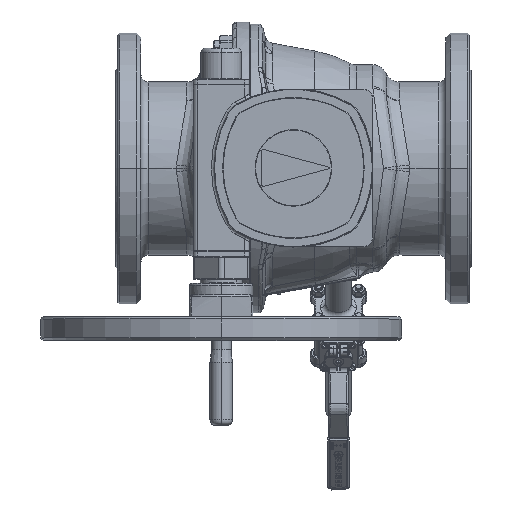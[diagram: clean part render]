
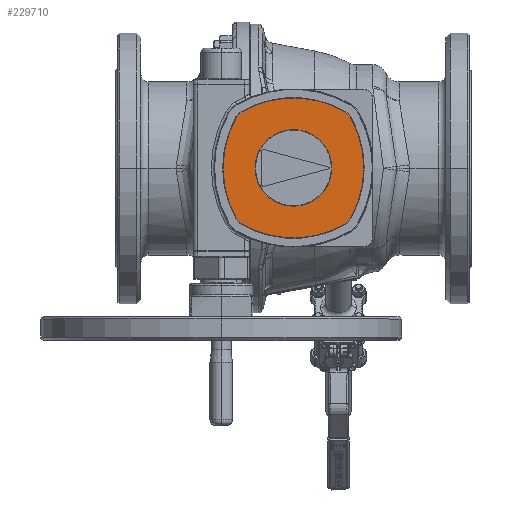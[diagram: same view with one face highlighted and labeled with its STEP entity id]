
A CAD part, top view. The second image highlights one B-rep face of the part: STEP entity #229710.
In plain terms, the highlighted planar face has unit normal (0, 0, 1).
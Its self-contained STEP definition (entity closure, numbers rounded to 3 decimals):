
#212145=CARTESIAN_POINT('',(0.,-37.5,175.));
#212146=DIRECTION('',(0.,0.,-1.));
#212147=DIRECTION('',(-0.502,0.865,0.));
#212148=AXIS2_PLACEMENT_3D('',#212145,#212146,#212147);
#212159=CARTESIAN_POINT('',(50.17,49.004,175.));
#212160=DIRECTION('',(0.,0.,1.));
#212161=DIRECTION('',(0.872,0.49,0.));
#212162=AXIS2_PLACEMENT_3D('',#212159,#212160,#212161);
#212173=CARTESIAN_POINT('',(-37.,0.,175.));
#212174=DIRECTION('',(0.,0.,-1.));
#212175=DIRECTION('',(0.872,0.49,0.));
#212176=AXIS2_PLACEMENT_3D('',#212173,#212174,#212175);
#212187=CARTESIAN_POINT('',(50.17,-49.004,175.));
#212188=DIRECTION('',(0.,0.,1.));
#212189=DIRECTION('',(0.502,-0.865,0.));
#212190=AXIS2_PLACEMENT_3D('',#212187,#212188,#212189);
#212201=CARTESIAN_POINT('',(0.,37.5,175.));
#212202=DIRECTION('',(0.,0.,-1.));
#212203=DIRECTION('',(0.502,-0.865,0.));
#212204=AXIS2_PLACEMENT_3D('',#212201,#212202,#212203);
#212215=CARTESIAN_POINT('',(-50.17,-49.004,175.));
#212216=DIRECTION('',(0.,0.,1.));
#212217=DIRECTION('',(-0.872,-0.49,0.));
#212218=AXIS2_PLACEMENT_3D('',#212215,#212216,#212217);
#212229=CARTESIAN_POINT('',(37.,0.,175.));
#212230=DIRECTION('',(0.,0.,-1.));
#212231=DIRECTION('',(-0.872,-0.49,0.));
#212232=AXIS2_PLACEMENT_3D('',#212229,#212230,#212231);
#212243=CARTESIAN_POINT('',(-50.17,49.004,175.));
#212244=DIRECTION('',(0.,0.,1.));
#212245=DIRECTION('',(-0.502,0.865,0.));
#212246=AXIS2_PLACEMENT_3D('',#212243,#212244,#212245);
#212248=CARTESIAN_POINT('',(0.,0.,175.));
#212249=DIRECTION('',(0.,0.,1.));
#212250=DIRECTION('',(-1.,0.,0.));
#212251=AXIS2_PLACEMENT_3D('',#212248,#212249,#212250);
#212253=CARTESIAN_POINT('',(0.,0.,175.));
#212254=DIRECTION('',(0.,0.,1.));
#212255=DIRECTION('',(1.,0.,0.));
#212256=AXIS2_PLACEMENT_3D('',#212253,#212254,#212255);
#216424=CARTESIAN_POINT('',(-42.5,0.,175.));
#216425=CARTESIAN_POINT('',(42.5,0.,175.));
#216426=VERTEX_POINT('',#216424);
#216427=VERTEX_POINT('',#216425);
#216428=CARTESIAN_POINT('',(57.695,-61.98,175.));
#216429=CARTESIAN_POINT('',(63.245,-56.355,175.));
#216430=VERTEX_POINT('',#216428);
#216431=VERTEX_POINT('',#216429);
#216432=CARTESIAN_POINT('',(63.245,56.355,175.));
#216433=VERTEX_POINT('',#216432);
#216434=CARTESIAN_POINT('',(57.695,61.98,175.));
#216435=VERTEX_POINT('',#216434);
#216436=CARTESIAN_POINT('',(-57.695,61.98,175.));
#216437=VERTEX_POINT('',#216436);
#216438=CARTESIAN_POINT('',(-63.245,56.355,175.));
#216439=VERTEX_POINT('',#216438);
#216440=CARTESIAN_POINT('',(-63.245,-56.355,175.));
#216441=VERTEX_POINT('',#216440);
#216442=CARTESIAN_POINT('',(-57.695,-61.98,175.));
#216443=VERTEX_POINT('',#216442);
#229689=CARTESIAN_POINT('',(0.,0.,175.));
#229690=DIRECTION('',(0.,0.,1.));
#229691=DIRECTION('',(1.,0.,0.));
#229692=AXIS2_PLACEMENT_3D('',#229689,#229690,#229691);
#229693=PLANE('',#229692);
#229694=ORIENTED_EDGE('',*,*,#229628,.F.);
#229695=ORIENTED_EDGE('',*,*,#229642,.T.);
#229696=ORIENTED_EDGE('',*,*,#229656,.F.);
#229697=ORIENTED_EDGE('',*,*,#229670,.T.);
#229698=ORIENTED_EDGE('',*,*,#229683,.F.);
#229699=ORIENTED_EDGE('',*,*,#229585,.T.);
#229700=ORIENTED_EDGE('',*,*,#229600,.F.);
#229701=ORIENTED_EDGE('',*,*,#229614,.T.);
#229702=EDGE_LOOP('',(#229694,#229695,#229696,#229697,#229698,#229699,#229700,
#229701));
#229703=FACE_OUTER_BOUND('',#229702,.F.);
#229705=ORIENTED_EDGE('',*,*,#229704,.T.);
#229707=ORIENTED_EDGE('',*,*,#229706,.T.);
#229708=EDGE_LOOP('',(#229705,#229707));
#229709=FACE_BOUND('',#229708,.F.);
#229710=ADVANCED_FACE('',(#229703,#229709),#229693,.T.);
#212149=CIRCLE('',#212148,115.);
#212163=CIRCLE('',#212162,15.);
#212177=CIRCLE('',#212176,115.);
#212191=CIRCLE('',#212190,15.);
#212205=CIRCLE('',#212204,115.);
#212219=CIRCLE('',#212218,15.);
#212233=CIRCLE('',#212232,115.);
#212247=CIRCLE('',#212246,15.);
#212252=CIRCLE('',#212251,42.5);
#212257=CIRCLE('',#212256,42.5);
#229585=EDGE_CURVE('',#216437,#216435,#212149,.T.);
#229600=EDGE_CURVE('',#216433,#216435,#212163,.T.);
#229614=EDGE_CURVE('',#216433,#216431,#212177,.T.);
#229628=EDGE_CURVE('',#216430,#216431,#212191,.T.);
#229642=EDGE_CURVE('',#216430,#216443,#212205,.T.);
#229656=EDGE_CURVE('',#216441,#216443,#212219,.T.);
#229670=EDGE_CURVE('',#216441,#216439,#212233,.T.);
#229683=EDGE_CURVE('',#216437,#216439,#212247,.T.);
#229704=EDGE_CURVE('',#216426,#216427,#212252,.T.);
#229706=EDGE_CURVE('',#216427,#216426,#212257,.T.);
